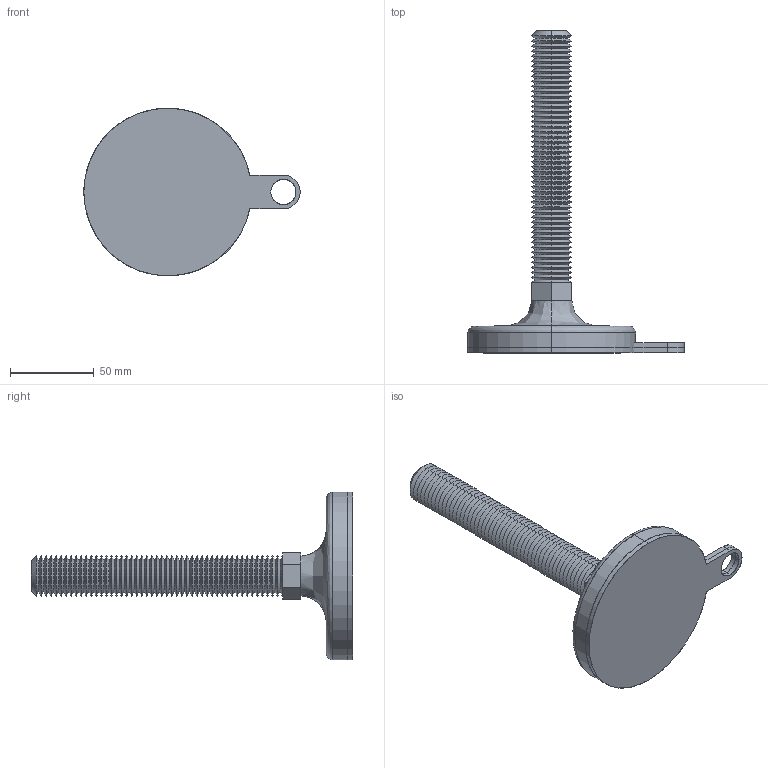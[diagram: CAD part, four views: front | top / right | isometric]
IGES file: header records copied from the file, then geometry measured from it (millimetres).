
Start section: SolidWorks IGES file using analytic representation for surfaces
Global section: file name: C:\Users\liam_\OneDrive\Documents\WORK\Work for WixRoyd\Job Files\J-00026 - Matt Davis CAD - 20191124\04. CAD Drawings\Wixroyd20191124\34704_v2\34704_v2_20191128_IGES\34704.W2405.igs; native system: SolidWorks 2017; preprocessor: SolidWorks 2017; author: liam_; date: 191128.203014; units: millimetre
Bounding box: 129 x 192 x 100 mm (x, y, z)
Surface area: 59557.3 mm2 (no closed solid volume)
Topology: 0 solids, 0 shells, 241 faces, 1596 edges, 1596 vertices
Faces by surface type: revolution 209, bspline 32
